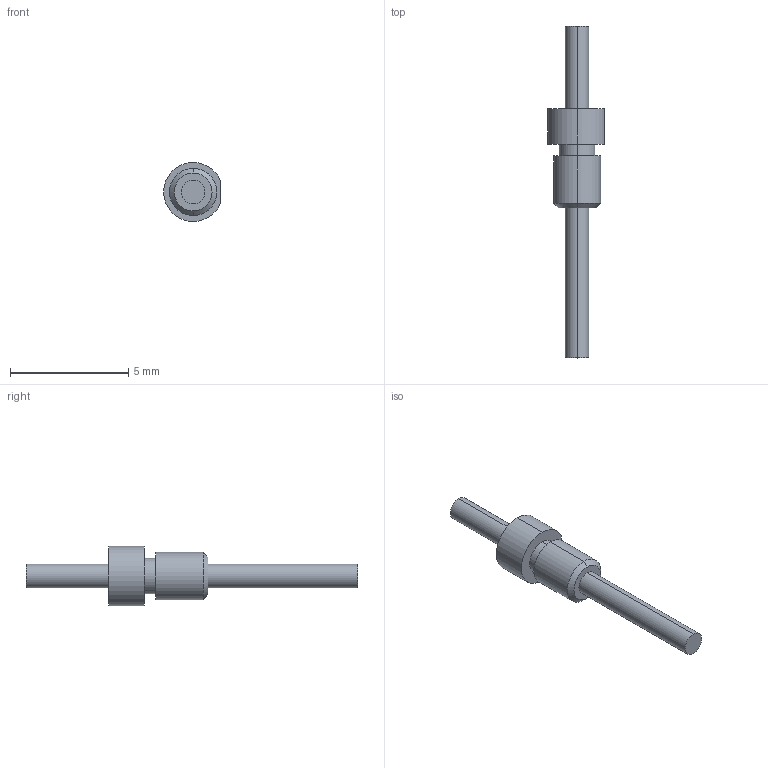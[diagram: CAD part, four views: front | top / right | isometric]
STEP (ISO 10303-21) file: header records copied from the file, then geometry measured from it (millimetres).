
FILE_DESCRIPTION (( 'STEP AP203' ), '1' );
FILE_NAME ('TS-FM01-K.STEP', '2015-03-13T14:52:55', ( '' ), ( '' ), 'SwSTEP 2.0', 'SolidWorks 2015', '' );
FILE_SCHEMA (( 'CONFIG_CONTROL_DESIGN' ));
Length unit declared in the file: millimetre
Products named in the file (1): TS-FM01-K
Bounding box: 2.4 x 14.05 x 2.5 mm (x, y, z)
Volume: 22.7 mm3; surface area: 70.5 mm2
Topology: 1 solids, 1 shells, 20 faces, 40 edges, 26 vertices
Faces by surface type: cylinder 11, plane 7, cone 2
Entity records: 609 total; most frequent: DIRECTION 106, CARTESIAN_POINT 87, ORIENTED_EDGE 80, AXIS2_PLACEMENT_3D 45, EDGE_CURVE 40, VERTEX_POINT 26, CIRCLE 24, EDGE_LOOP 24
